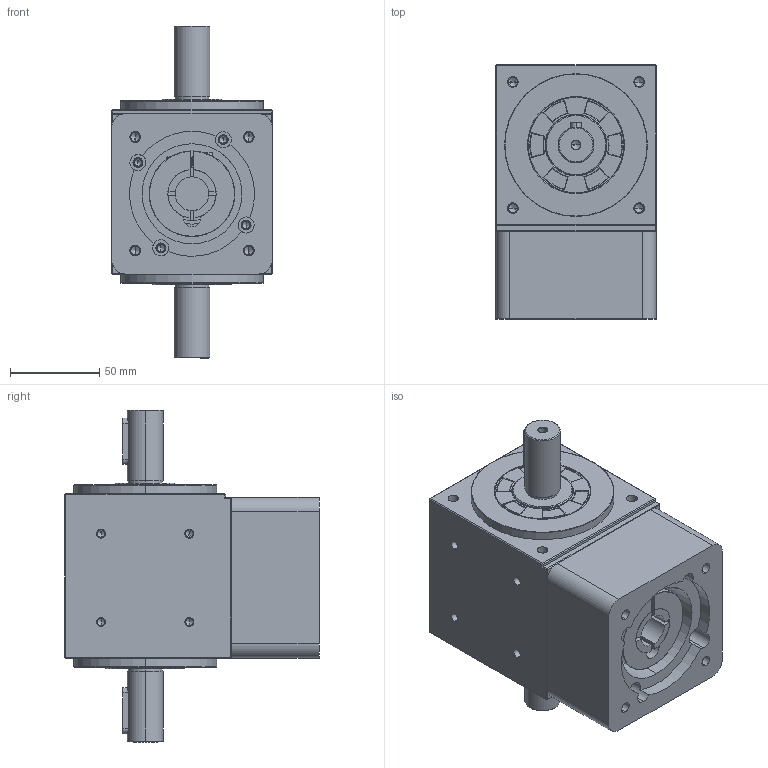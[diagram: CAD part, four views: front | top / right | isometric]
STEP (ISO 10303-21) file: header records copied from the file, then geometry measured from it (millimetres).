
FILE_DESCRIPTION (( 'STEP AP214' ), '1' );
FILE_NAME ('RD90-5(19-70-90-M6).STEP', '2019-01-14T02:45:40', ( '' ), ( '' ), 'SwSTEP 2.0', 'SolidWorks 2016', '' );
FILE_SCHEMA (( 'AUTOMOTIVE_DESIGN' ));
Length unit declared in the file: millimetre
Products named in the file (8): RD90-(20x41-6x25); R90; SN90-48x27x15-M6; R90-5(70-90-M6); RD90-5(19-70-90-M6); R90-45x75x7; R90-5-(19); R90-34x54x8
Assembly tree (7 placements, depth 2):
  RD90-5(19-70-90-M6)
    R90
    RD90-(20x41-6x25)
    R90-5-(19)
    R90-5(70-90-M6)
    R90-34x54x8
    R90-45x75x7
    SN90-48x27x15-M6
Bounding box: 90 x 142.43 x 186 mm (x, y, z)
Volume: 943763.6 mm3; surface area: 176639.8 mm2
Topology: 8 solids, 8 shells, 672 faces, 1617 edges, 965 vertices
Faces by surface type: cylinder 332, cone 136, plane 134, torus 48, bspline 22
Entity records: 36678 total; most frequent: CARTESIAN_POINT 20687, DIRECTION 3189, ORIENTED_EDGE 3114, EDGE_CURVE 1557, AXIS2_PLACEMENT_3D 1256, VERTEX_POINT 965, EDGE_LOOP 762, LINE 677
